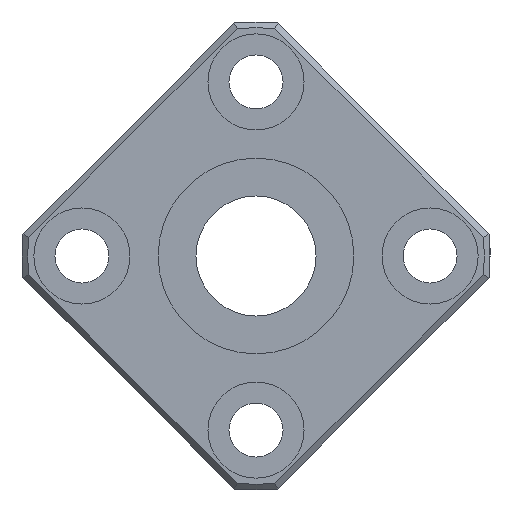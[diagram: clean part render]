
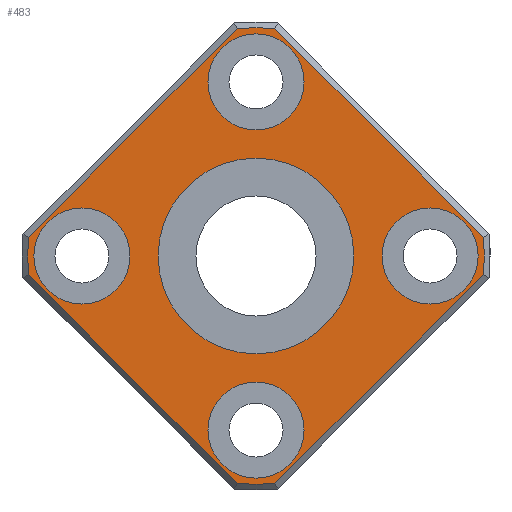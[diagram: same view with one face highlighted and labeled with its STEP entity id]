
A CAD part, left-side view. The second image highlights one B-rep face of the part: STEP entity #483.
In plain terms, the highlighted planar face has unit normal (-1, 0, 0).
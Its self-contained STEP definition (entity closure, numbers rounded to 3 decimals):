
#59=CARTESIAN_POINT('',(0.0,1.571,-18.935));
#60=VERTEX_POINT('',#59);
#68=CARTESIAN_POINT('',(0.0,18.935,-1.571));
#69=VERTEX_POINT('',#68);
#70=CARTESIAN_POINT('',(0.0,1.571,-18.935));
#71=DIRECTION('',(0.0,0.707,0.707));
#72=VECTOR('',#71,24.556);
#73=LINE('',#70,#72);
#74=EDGE_CURVE('',#60,#69,#73,.T.);
#101=CARTESIAN_POINT('',(0.0,18.935,1.571));
#102=VERTEX_POINT('',#101);
#103=CARTESIAN_POINT('',(0.0,0.0,0.0));
#104=DIRECTION('',(1.0,0.0,0.0));
#105=DIRECTION('',(0.0,0.0,1.0));
#106=AXIS2_PLACEMENT_3D('',#103,#104,#105);
#107=CIRCLE('',#106,19.0);
#108=EDGE_CURVE('',#69,#102,#107,.T.);
#134=CARTESIAN_POINT('',(0.0,1.571,18.935));
#135=VERTEX_POINT('',#134);
#136=CARTESIAN_POINT('',(0.0,18.935,1.571));
#137=DIRECTION('',(0.0,-0.707,0.707));
#138=VECTOR('',#137,24.556);
#139=LINE('',#136,#138);
#140=EDGE_CURVE('',#102,#135,#139,.T.);
#167=CARTESIAN_POINT('',(0.0,-1.571,18.935));
#168=VERTEX_POINT('',#167);
#169=CARTESIAN_POINT('',(0.0,0.0,0.0));
#170=DIRECTION('',(1.0,0.0,0.0));
#171=DIRECTION('',(0.0,0.0,1.0));
#172=AXIS2_PLACEMENT_3D('',#169,#170,#171);
#173=CIRCLE('',#172,19.0);
#174=EDGE_CURVE('',#135,#168,#173,.T.);
#200=CARTESIAN_POINT('',(0.0,-18.935,1.571));
#201=VERTEX_POINT('',#200);
#202=CARTESIAN_POINT('',(0.0,-1.571,18.935));
#203=DIRECTION('',(0.0,-0.707,-0.707));
#204=VECTOR('',#203,24.556);
#205=LINE('',#202,#204);
#206=EDGE_CURVE('',#168,#201,#205,.T.);
#233=CARTESIAN_POINT('',(0.0,-18.935,-1.571));
#234=VERTEX_POINT('',#233);
#235=CARTESIAN_POINT('',(0.0,0.0,0.0));
#236=DIRECTION('',(1.0,0.0,0.0));
#237=DIRECTION('',(0.0,0.0,1.0));
#238=AXIS2_PLACEMENT_3D('',#235,#236,#237);
#239=CIRCLE('',#238,19.0);
#240=EDGE_CURVE('',#201,#234,#239,.T.);
#266=CARTESIAN_POINT('',(0.0,-1.571,-18.935));
#267=VERTEX_POINT('',#266);
#268=CARTESIAN_POINT('',(0.0,-18.935,-1.571));
#269=DIRECTION('',(0.0,0.707,-0.707));
#270=VECTOR('',#269,24.556);
#271=LINE('',#268,#270);
#272=EDGE_CURVE('',#234,#267,#271,.T.);
#297=CARTESIAN_POINT('',(0.0,0.0,0.0));
#298=DIRECTION('',(1.0,0.0,0.0));
#299=DIRECTION('',(0.0,0.0,-1.0));
#300=AXIS2_PLACEMENT_3D('',#297,#298,#299);
#301=CIRCLE('',#300,19.0);
#302=EDGE_CURVE('',#267,#60,#301,.T.);
#413=CARTESIAN_POINT('',(0.0,0.0,8.825));
#414=DIRECTION('',(-1.0,0.0,0.0));
#415=DIRECTION('',(0.0,0.0,1.0));
#416=AXIS2_PLACEMENT_3D('',#413,#414,#415);
#417=PLANE('',#416);
#418=ORIENTED_EDGE('',*,*,#74,.F.);
#419=ORIENTED_EDGE('',*,*,#302,.F.);
#420=ORIENTED_EDGE('',*,*,#272,.F.);
#421=ORIENTED_EDGE('',*,*,#240,.F.);
#422=ORIENTED_EDGE('',*,*,#206,.F.);
#423=ORIENTED_EDGE('',*,*,#174,.F.);
#424=ORIENTED_EDGE('',*,*,#140,.F.);
#425=ORIENTED_EDGE('',*,*,#108,.F.);
#426=EDGE_LOOP('',(#418,#419,#420,#421,#422,#423,#424,#425));
#427=FACE_OUTER_BOUND('',#426,.T.);
#428=CARTESIAN_POINT('',(0.0,0.0,8.15));
#429=VERTEX_POINT('',#428);
#430=CARTESIAN_POINT('',(0.0,0.0,0.0));
#431=DIRECTION('',(-1.0,0.0,0.0));
#432=DIRECTION('',(0.0,0.0,1.0));
#433=AXIS2_PLACEMENT_3D('',#430,#431,#432);
#434=CIRCLE('',#433,8.15);
#435=EDGE_CURVE('',#429,#429,#434,.T.);
#436=ORIENTED_EDGE('',*,*,#435,.F.);
#437=EDGE_LOOP('',(#436));
#438=FACE_BOUND('',#437,.T.);
#439=CARTESIAN_POINT('',(0.0,-10.5,0.));
#440=VERTEX_POINT('',#439);
#441=CARTESIAN_POINT('',(0.0,-14.5,0.));
#442=DIRECTION('',(1.0,0.0,0.0));
#443=DIRECTION('',(0.0,1.0,0.0));
#444=AXIS2_PLACEMENT_3D('',#441,#442,#443);
#445=CIRCLE('',#444,4.0);
#446=EDGE_CURVE('',#440,#440,#445,.T.);
#447=ORIENTED_EDGE('',*,*,#446,.T.);
#448=EDGE_LOOP('',(#447));
#449=FACE_BOUND('',#448,.T.);
#450=CARTESIAN_POINT('',(0.0,18.5,0.));
#451=VERTEX_POINT('',#450);
#452=CARTESIAN_POINT('',(0.0,14.5,0.));
#453=DIRECTION('',(1.0,0.0,0.0));
#454=DIRECTION('',(0.0,1.0,0.0));
#455=AXIS2_PLACEMENT_3D('',#452,#453,#454);
#456=CIRCLE('',#455,4.0);
#457=EDGE_CURVE('',#451,#451,#456,.T.);
#458=ORIENTED_EDGE('',*,*,#457,.T.);
#459=EDGE_LOOP('',(#458));
#460=FACE_BOUND('',#459,.T.);
#461=CARTESIAN_POINT('',(0.0,4.,14.5));
#462=VERTEX_POINT('',#461);
#463=CARTESIAN_POINT('',(0.0,0.,14.5));
#464=DIRECTION('',(1.0,0.0,0.0));
#465=DIRECTION('',(0.0,1.0,0.0));
#466=AXIS2_PLACEMENT_3D('',#463,#464,#465);
#467=CIRCLE('',#466,4.0);
#468=EDGE_CURVE('',#462,#462,#467,.T.);
#469=ORIENTED_EDGE('',*,*,#468,.T.);
#470=EDGE_LOOP('',(#469));
#471=FACE_BOUND('',#470,.T.);
#472=CARTESIAN_POINT('',(0.0,4.,-14.5));
#473=VERTEX_POINT('',#472);
#474=CARTESIAN_POINT('',(0.0,0.,-14.5));
#475=DIRECTION('',(1.0,0.0,0.0));
#476=DIRECTION('',(0.0,1.0,0.0));
#477=AXIS2_PLACEMENT_3D('',#474,#475,#476);
#478=CIRCLE('',#477,4.0);
#479=EDGE_CURVE('',#473,#473,#478,.T.);
#480=ORIENTED_EDGE('',*,*,#479,.T.);
#481=EDGE_LOOP('',(#480));
#482=FACE_BOUND('',#481,.T.);
#483=ADVANCED_FACE('',(#427,#438,#449,#460,#471,#482),#417,.T.);
